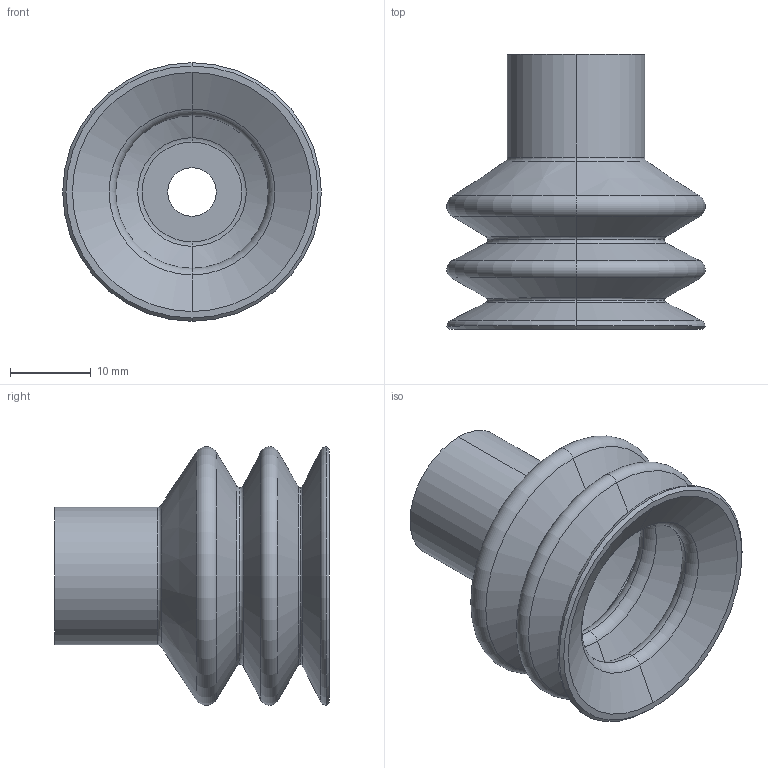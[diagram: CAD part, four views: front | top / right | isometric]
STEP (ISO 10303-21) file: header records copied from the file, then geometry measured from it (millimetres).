
FILE_DESCRIPTION (( 'STEP AP203' ), '1' );
FILE_NAME ('82_32--A.STEP', '2017-05-30T09:53:56', ( '' ), ( '' ), 'SwSTEP 2.0', 'SolidWorks 2016', '' );
FILE_SCHEMA (( 'CONFIG_CONTROL_DESIGN' ));
Length unit declared in the file: millimetre
Products named in the file (1): 82_32--A
Bounding box: 32 x 34 x 32 mm (x, y, z)
Volume: 6229.3 mm3; surface area: 7143.6 mm2
Topology: 1 solids, 1 shells, 68 faces, 136 edges, 72 vertices
Faces by surface type: torus 36, cone 22, cylinder 6, plane 4
Entity records: 1841 total; most frequent: DIRECTION 382, CARTESIAN_POINT 277, ORIENTED_EDGE 272, AXIS2_PLACEMENT_3D 177, EDGE_CURVE 136, CIRCLE 108, EDGE_LOOP 72, VERTEX_POINT 72
